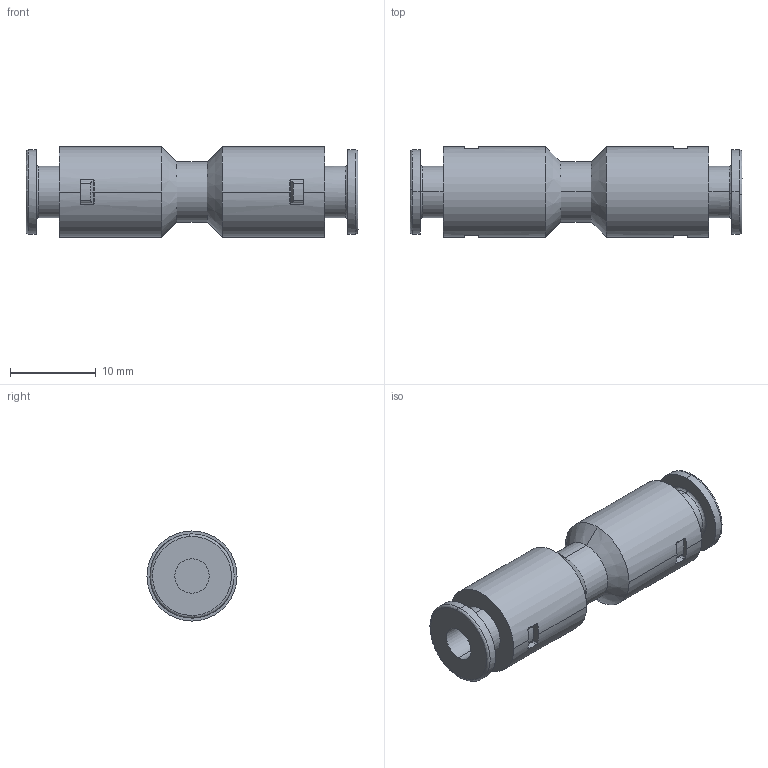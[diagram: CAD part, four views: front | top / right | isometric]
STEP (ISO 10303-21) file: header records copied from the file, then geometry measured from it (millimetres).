
FILE_DESCRIPTION (( 'STEP AP214' ), '1' );
FILE_NAME ('KQ2H04-00A.STEP', '2023-03-06T09:00:30', ( 'Windows User' ), ( 'P R C' ), 'SwSTEP 2.0', 'SolidWorks 2019', '' );
FILE_SCHEMA (( 'AUTOMOTIVE_DESIGN' ));
Length unit declared in the file: millimetre
Products named in the file (1): KQ2H04-00A
Bounding box: 38.7 x 10.5 x 10.5 mm (x, y, z)
Volume: 2276.7 mm3; surface area: 2041.5 mm2
Topology: 1 solids, 1 shells, 102 faces, 280 edges, 186 vertices
Faces by surface type: cylinder 50, plane 32, cone 12, bspline 8
Entity records: 3920 total; most frequent: CARTESIAN_POINT 1339, ORIENTED_EDGE 560, DIRECTION 516, EDGE_CURVE 280, AXIS2_PLACEMENT_3D 203, VERTEX_POINT 186, VECTOR 110, LINE 110
